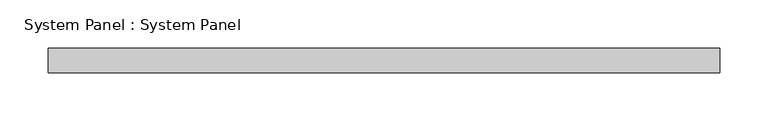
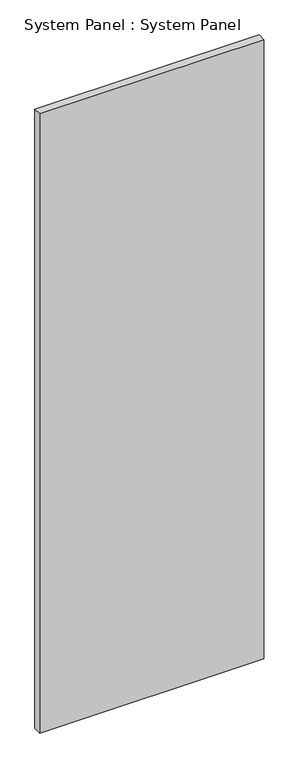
"""IFC4 building model written with IfcOpenShell, lengths in millimetres: plate geometry, System Panel : System Panel."""

import ifcopenshell
import ifcopenshell.guid

model = None  # the IFC model being written
_history = None  # IfcOwnerHistory: only IFC2X3 demands one
_inside = {}  # id of a spatial element -> (the spatial element, [elements in it])
_under = {}  # id of a project, library or spatial element -> (it, [spatial elements below it])
_declared = {}  # id of a project -> (the project, [libraries it declares])
_typed = {}  # id of a type object -> (the type object, [elements of that type])
_made_of = {}  # id of a material, layer set ... -> (it, [elements and type objects made of it])


def new_model(schema):
    """Start an empty IFC model of exactly this schema.

    Asked for "IFC4X3", IfcOpenShell would pick the latest addendum, in which some entities
    have other attributes; the version numbers below select the first issue.
    IFC2X3 requires an IfcOwnerHistory on every rooted entity: one is made here for all.
    """
    global model, _history
    if schema == "IFC4X3":
        model = ifcopenshell.file(schema_version=(4, 3, 0, 0))
    else:
        model = ifcopenshell.file(schema=schema)
    _inside.clear()
    _under.clear()
    _declared.clear()
    _typed.clear()
    _made_of.clear()
    _history = None
    if model.schema == "IFC2X3":
        org = make("IfcOrganization", Name="unknown")
        user = make(
            "IfcPersonAndOrganization",
            ThePerson=make("IfcPerson", FamilyName="unknown"),
            TheOrganization=org,
        )
        app = make(
            "IfcApplication",
            ApplicationDeveloper=org,
            Version="unknown",
            ApplicationFullName="unknown",
            ApplicationIdentifier="unknown",
        )
        _history = make(
            "IfcOwnerHistory",
            OwningUser=user,
            OwningApplication=app,
            ChangeAction="ADDED",
            CreationDate=0,
        )
    return model


def make(cls, **values):
    """One entity of the class cls with the attributes given. An attribute that is None is left unset."""
    return model.create_entity(
        cls, **{name: value for name, value in values.items() if value is not None}
    )


def rooted(cls, **values):
    """An entity with a GlobalId (a new one), such as an element, a storey or a relation."""
    return make(cls, GlobalId=ifcopenshell.guid.new(), OwnerHistory=_history, **values)


def si_unit(unit_type, name, prefix=None):
    """IfcSIUnit, for example si_unit("LENGTHUNIT", "METRE", prefix="MILLI")."""
    return make("IfcSIUnit", UnitType=unit_type, Prefix=prefix, Name=name)


def assignment(units):
    """IfcUnitAssignment: the units of a project."""
    return None if units is None else make("IfcUnitAssignment", Units=units)


def point(xyz):
    """IfcCartesianPoint."""
    return None if xyz is None else make("IfcCartesianPoint", Coordinates=xyz)


def direction(xyz):
    """IfcDirection."""
    return None if xyz is None else make("IfcDirection", DirectionRatios=xyz)


def frame(location, z_axis=None, x_axis=None):
    """IfcAxis2Placement3D, a coordinate frame: its origin and axes. An axis left out is left unset."""
    return make(
        "IfcAxis2Placement3D",
        Location=point(location),
        Axis=direction(z_axis),
        RefDirection=direction(x_axis),
    )


def origin():
    """The frame at (0, 0, 0) with its axes left unset."""
    return frame((0.0, 0.0, 0.0))


def origin_with_axes():
    """The frame at (0, 0, 0) with the z axis (0, 0, 1) and the x axis (1, 0, 0) written out."""
    return frame((0.0, 0.0, 0.0), z_axis=(0.0, 0.0, 1.0), x_axis=(1.0, 0.0, 0.0))


def place(relative_to, where):
    """IfcLocalPlacement: puts the frame where relative to a parent placement (None: the world)."""
    return make(
        "IfcLocalPlacement", PlacementRelTo=relative_to, RelativePlacement=where
    )


def context(
    kind, dimensions, precision=None, world=None, true_north=None, identifier=None
):
    """IfcGeometricRepresentationContext, for example the 3D "Model" context."""
    return make(
        "IfcGeometricRepresentationContext",
        ContextIdentifier=identifier,
        ContextType=kind,
        CoordinateSpaceDimension=dimensions,
        Precision=precision,
        WorldCoordinateSystem=world,
        TrueNorth=true_north,
    )


def project(units=None, contexts=None):
    """IfcProject with its units and contexts."""
    return rooted(
        "IfcProject",
        Name="project",
        RepresentationContexts=contexts,
        UnitsInContext=assignment(units),
    )


def spatial(cls, under=None, at=None, **own):
    """A site, building, storey or space (cls), placed at a placement, below another one or the project."""
    s = rooted(cls, ObjectPlacement=at, **own)
    if under is not None:
        _under.setdefault(under.id(), (under, []))[1].append(s)
    return s


def polyline(points):
    """IfcPolyline through the points."""
    return make("IfcPolyline", Points=[point(p) for p in points])


def outline(outer, holes=None, kind="AREA"):
    """IfcArbitraryClosedProfileDef: a profile drawn as a closed curve; with holes, ...WithVoids."""
    if holes is None:
        return make("IfcArbitraryClosedProfileDef", ProfileType=kind, OuterCurve=outer)
    return make(
        "IfcArbitraryProfileDefWithVoids",
        ProfileType=kind,
        OuterCurve=outer,
        InnerCurves=holes,
    )


def extrude(swept, where, along, depth):
    """IfcExtrudedAreaSolid: the profile swept, set in the frame where, extruded along a direction by depth."""
    return make(
        "IfcExtrudedAreaSolid",
        SweptArea=swept,
        Position=where,
        ExtrudedDirection=direction(along),
        Depth=depth,
    )


def shape(context_of_items, identifier, shape_type, items):
    """IfcShapeRepresentation: the items that make up one representation, for example the "Body"."""
    return make(
        "IfcShapeRepresentation",
        ContextOfItems=context_of_items,
        RepresentationIdentifier=identifier,
        RepresentationType=shape_type,
        Items=items,
    )


def source(mapping_origin, context_of_items, identifier, shape_type, items):
    """IfcRepresentationMap: a shape defined once, which mapped items show again and again."""
    return make(
        "IfcRepresentationMap",
        MappingOrigin=mapping_origin,
        MappedRepresentation=shape(context_of_items, identifier, shape_type, items),
    )


def transform(
    local_origin,
    x_axis=None,
    y_axis=None,
    z_axis=None,
    scale=None,
    scale2=None,
    scale3=None,
    uniform=True,
):
    """IfcCartesianTransformationOperator3D, or its non-uniform kind. x_axis, y_axis, z_axis: its Axis1, 2, 3."""
    if uniform:
        return make(
            "IfcCartesianTransformationOperator3D",
            Axis1=direction(x_axis),
            Axis2=direction(y_axis),
            LocalOrigin=point(local_origin),
            Scale=scale,
            Axis3=direction(z_axis),
        )
    return make(
        "IfcCartesianTransformationOperator3DnonUniform",
        Axis1=direction(x_axis),
        Axis2=direction(y_axis),
        LocalOrigin=point(local_origin),
        Scale=scale,
        Axis3=direction(z_axis),
        Scale2=scale2,
        Scale3=scale3,
    )


def mapped(mapping_source, mapping_target):
    """IfcMappedItem: shows the shape of a source again, moved by a transform."""
    return make(
        "IfcMappedItem", MappingSource=mapping_source, MappingTarget=mapping_target
    )


def made_of(thing, what):
    """Note that an element or type object is made of a material, layer set ...; save() writes the relation."""
    if what is not None:
        _made_of.setdefault(what.id(), (what, []))[1].append(thing)
    return thing


def element(
    cls,
    number,
    at=None,
    inside=None,
    cuts=None,
    type_object=None,
    material=None,
    context=None,
    identifier="Body",
    shape_type=None,
    held_by="IfcProductDefinitionShape",
    body=None,
    shapes=None,
    **own,
):
    """One element of the class cls, such as IfcWall. Its Tag is "e" and its number.

    at: its placement. inside: the storey or other place that contains it. cuts: it is an
    opening in that element (IfcRelVoidsElement). A single representation is given by context,
    identifier, shape_type and body (its items); several are given by shapes. held_by: the class
    of the entity that holds the representations. save() writes the other relations.
    """
    e = rooted(cls, Tag="e%d" % number, ObjectPlacement=at, **own)
    if body is not None:
        shapes = [shape(context, identifier, shape_type, body)]
    if shapes is not None:
        e.Representation = make(held_by, Representations=shapes)
    if inside is not None:
        _inside.setdefault(inside.id(), (inside, []))[1].append(e)
    if cuts is not None:
        rooted(
            "IfcRelVoidsElement", RelatingBuildingElement=cuts, RelatedOpeningElement=e
        )
    if type_object is not None:
        _typed.setdefault(type_object.id(), (type_object, []))[1].append(e)
    return made_of(e, material)


def aggregate(whole, parts):
    """IfcRelAggregates: a whole, such as a stair, and the parts it consists of."""
    return rooted("IfcRelAggregates", RelatingObject=whole, RelatedObjects=parts)


def save(model, path):
    """Write the relations noted so far, then the file.

    IfcRelAggregates (storeys below a building ...), IfcRelContainedInSpatialStructure (elements
    in a storey), IfcRelDefinesByType, IfcRelAssociatesMaterial and IfcRelDeclares: one each for
    every whole, place, type object, material and project.
    """
    for whole, parts in _under.values():
        aggregate(whole, parts)
    for where, things in _inside.values():
        rooted(
            "IfcRelContainedInSpatialStructure",
            RelatedElements=things,
            RelatingStructure=where,
        )
    for kind, things in _typed.values():
        rooted("IfcRelDefinesByType", RelatedObjects=things, RelatingType=kind)
    for what, things in _made_of.values():
        rooted("IfcRelAssociatesMaterial", RelatedObjects=things, RelatingMaterial=what)
    for by, libraries in _declared.values():
        rooted("IfcRelDeclares", RelatingContext=by, RelatedDefinitions=libraries)
    model.write(path)


def system_panel_system_panel_aed4df24(model_context):
    return source(origin(), model_context, "Body", "SweptSolid", [
        extrude(outline(polyline([(349.25, 19.05), (-349.25, 19.05), (-349.25, 44.45), (349.25, 44.45), (349.25, 19.05)])), origin_with_axes(), (0.0, 0.0, 1.0), 2038.35),
    ])


if __name__ == "__main__":
    model = new_model("IFC4")
    model_context = context("Model", 3, world=origin())
    ifc_project = project(units=[si_unit("LENGTHUNIT", "METRE", prefix="MILLI")], contexts=[model_context])
    site = spatial("IfcSite", under=ifc_project)
    building = spatial("IfcBuilding", under=site)
    placement = place(None, origin())
    system_panel_system_panel_shape = system_panel_system_panel_aed4df24(model_context)
    element("IfcPlate", 1, ObjectType="System Panel : System Panel", at=placement, inside=building, context=model_context, shape_type="MappedRepresentation", body=[
        mapped(system_panel_system_panel_shape, transform((0.0, 0.0, 0.0), x_axis=(1.0, 0.0, 0.0), y_axis=(0.0, 1.0, 0.0), z_axis=(0.0, 0.0, 1.0))),
    ])
    save(model, "model.ifc")
